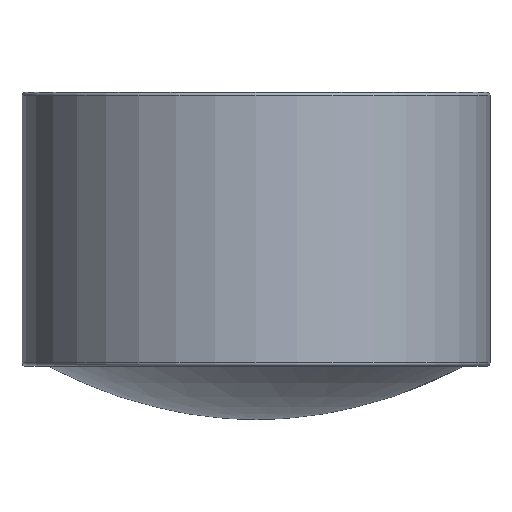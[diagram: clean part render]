
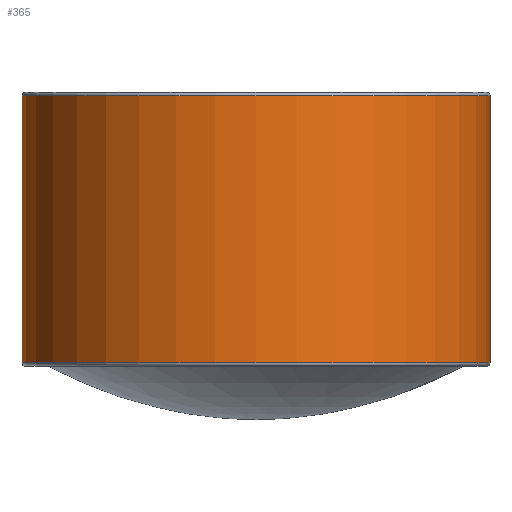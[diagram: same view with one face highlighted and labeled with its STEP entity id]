
A CAD part, front view. The second image highlights one B-rep face of the part: STEP entity #365.
In plain terms, the highlighted cylindrical face has radius 3.6 mm (diameter 7.2 mm), a partial arc.
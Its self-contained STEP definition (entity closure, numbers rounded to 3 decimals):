
#34=CARTESIAN_POINT('',(0.,0.,0.87));
#35=DIRECTION('',(0.,0.,-1.));
#36=DIRECTION('',(1.,0.,0.));
#37=AXIS2_PLACEMENT_3D('',#34,#35,#36);
#39=DIRECTION('',(0.,0.,-1.));
#40=VECTOR('',#39,4.112);
#41=CARTESIAN_POINT('',(-3.6,0.,4.982));
#42=LINE('',#41,#40);
#43=CARTESIAN_POINT('',(0.,0.,4.982));
#44=DIRECTION('',(0.,0.,-1.));
#45=DIRECTION('',(1.,0.,0.));
#46=AXIS2_PLACEMENT_3D('',#43,#44,#45);
#48=DIRECTION('',(0.,0.,-1.));
#49=VECTOR('',#48,4.112);
#50=CARTESIAN_POINT('',(3.6,0.,4.982));
#51=LINE('',#50,#49);
#272=CARTESIAN_POINT('',(3.6,0.,0.87));
#273=CARTESIAN_POINT('',(-3.6,0.,0.87));
#274=VERTEX_POINT('',#272);
#275=VERTEX_POINT('',#273);
#276=CARTESIAN_POINT('',(3.6,0.,4.982));
#277=CARTESIAN_POINT('',(-3.6,0.,4.982));
#278=VERTEX_POINT('',#276);
#279=VERTEX_POINT('',#277);
#351=CARTESIAN_POINT('',(0.,0.,-0.252));
#352=DIRECTION('',(0.,0.,1.));
#353=DIRECTION('',(-1.,0.,0.));
#354=AXIS2_PLACEMENT_3D('',#351,#352,#353);
#355=CYLINDRICAL_SURFACE('',#354,3.6);
#357=ORIENTED_EDGE('',*,*,#356,.T.);
#359=ORIENTED_EDGE('',*,*,#358,.F.);
#360=ORIENTED_EDGE('',*,*,#341,.F.);
#362=ORIENTED_EDGE('',*,*,#361,.T.);
#363=EDGE_LOOP('',(#357,#359,#360,#362));
#364=FACE_OUTER_BOUND('',#363,.F.);
#365=ADVANCED_FACE('',(#364),#355,.T.);
#38=CIRCLE('',#37,3.6);
#47=CIRCLE('',#46,3.6);
#341=EDGE_CURVE('',#278,#279,#47,.T.);
#356=EDGE_CURVE('',#274,#275,#38,.T.);
#358=EDGE_CURVE('',#279,#275,#42,.T.);
#361=EDGE_CURVE('',#278,#274,#51,.T.);
